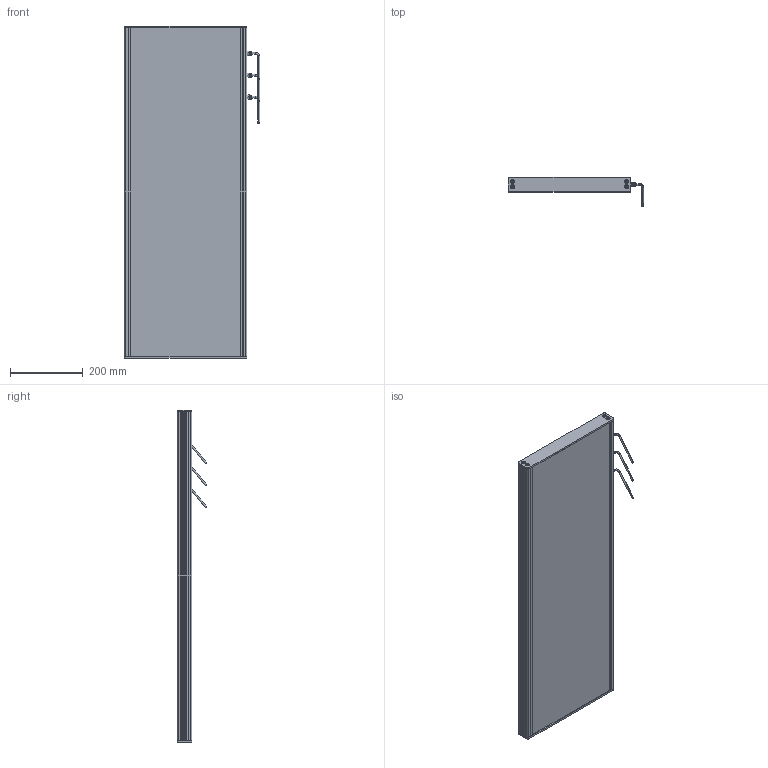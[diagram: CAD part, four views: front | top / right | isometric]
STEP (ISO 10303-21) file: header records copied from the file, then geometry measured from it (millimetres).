
FILE_DESCRIPTION (( 'STEP AP214' ), '1' );
FILE_NAME ('EFFI-BL-300-900T-3M12.STEP', '2021-07-02T09:57:36', ( '' ), ( '' ), 'SwSTEP 2.0', 'SolidWorks 2021', '' );
FILE_SCHEMA (( 'AUTOMOTIVE_DESIGN' ));
Length unit declared in the file: millimetre
Products named in the file (7): EFFI-BL-300-900T-3M12; Pièce2^EFFI-BL-XXX-YYYT + 3 M12; profile modif_lg 99.5 mm; 003776; cordon_Avec cable; bord fin modif_lg 436.5 mm
Assembly tree (16 placements, depth 2):
  EFFI-BL-300-900T-3M12
    bord fin modif_lg 436.5 mm  x2
    profile modif_lg 99.5 mm
    Pièce2^EFFI-BL-XXX-YYYT + 3 M12
    profile modif_lg 99.5 mm
    003776  x8
    cordon_Avec cable  x3
Bounding box: 371.15 x 80.73 x 910 mm (x, y, z)
Volume: 10539270.3 mm3; surface area: 957372 mm2
Topology: 13 solids, 31 shells, 748 faces, 1876 edges, 1201 vertices
Faces by surface type: plane 417, bspline 143, cylinder 136, torus 30, cone 22
Entity records: 16630 total; most frequent: CARTESIAN_POINT 5354, ORIENTED_EDGE 2196, DIRECTION 1926, EDGE_CURVE 1102, VECTOR 802, LINE 802, VERTEX_POINT 724, AXIS2_PLACEMENT_3D 562
